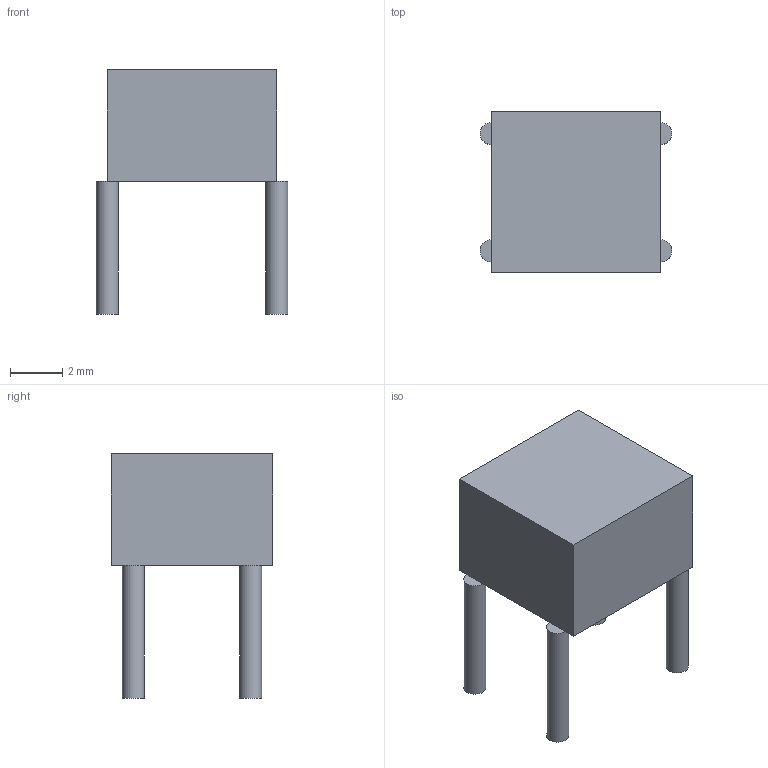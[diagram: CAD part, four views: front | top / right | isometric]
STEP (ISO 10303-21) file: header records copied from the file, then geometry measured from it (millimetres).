
FILE_DESCRIPTION(('FreeCAD Model'),'2;1');
FILE_NAME('/var/www/3D/0T/1581737.1.4.stp','2020-04-10T08:44:23',( 'Author'),(''),'Open CASCADE STEP processor 6.9','FreeCAD','Unknown' );
FILE_SCHEMA(('AUTOMOTIVE_DESIGN { 1 0 10303 214 1 1 1 1 }'));
Length unit declared in the file: millimetre
Products named in the file (3): ASSEMBLY; Body; Leads
Assembly tree (5 placements, depth 2):
  ASSEMBLY
    Body
    Leads  x4
Bounding box: 7.35 x 6.2 x 9.39 mm (x, y, z)
Volume: 219.2 mm3; surface area: 425.6 mm2
Topology: 17 solids, 17 shells, 54 faces, 60 edges, 40 vertices
Faces by surface type: plane 38, cylinder 16
Full cylindrical faces by diameter (mm): 0.85 x16
Entity records: 799 total; most frequent: DIRECTION 128, CARTESIAN_POINT 112, LINE 56, VECTOR 56, ORIENTED_EDGE 48, PCURVE 48, DEFINITIONAL_REPRESENTATION 48, AXIS2_PLACEMENT_3D 32
